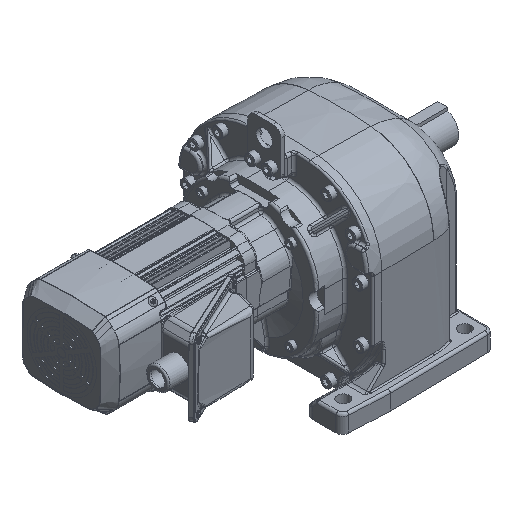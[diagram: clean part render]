
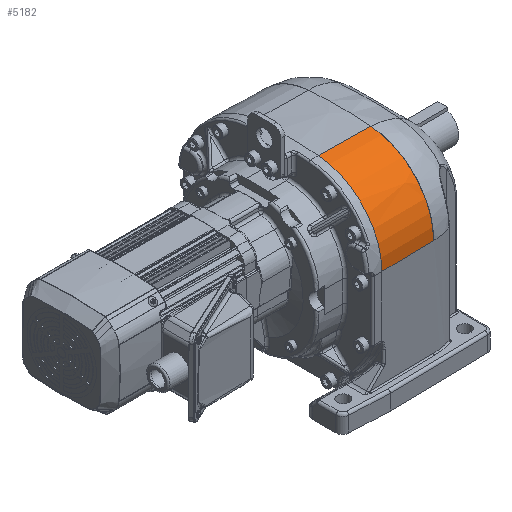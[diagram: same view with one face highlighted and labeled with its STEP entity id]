
A CAD part, isometric view. The second image highlights one B-rep face of the part: STEP entity #5182.
In plain terms, the highlighted free-form (B-spline) face has degree [2, 2] with [4, 3] control points.
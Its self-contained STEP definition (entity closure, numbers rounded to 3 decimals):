
#5182 = ADVANCED_FACE( '', ( #11649 ), #11650, .T. );
#11649 = FACE_OUTER_BOUND( '', #30127, .T. );
#11650 = ( BOUNDED_SURFACE(  )B_SPLINE_SURFACE( 2, 2, ( ( #30130, #30131, #30132 ), ( #30133, #30134, #30135 ), ( #30136, #30137, #30138 ), ( #30139, #30140, #30141 ) ), .UNSPECIFIED., .F., .F., .F. )B_SPLINE_SURFACE_WITH_KNOTS( ( 3, 1, 3 ), ( 3, 3 ), ( 0., 0.2, 1. ), ( 0., 1. ), .UNSPECIFIED. )GEOMETRIC_REPRESENTATION_ITEM(  )RATIONAL_B_SPLINE_SURFACE( ( ( 1., 0.734, 1. ), ( 1., 0.734, 1. ), ( 1., 0.734, 1. ), ( 1., 0.734, 1. ) ) )REPRESENTATION_ITEM( '' )SURFACE(  ) );
#30127 = EDGE_LOOP( '', ( #53343, #53344, #53345, #53346 ) );
#30130 = CARTESIAN_POINT( '', ( 65.03, -38.466, 82.375 ) );
#30131 = CARTESIAN_POINT( '', ( 65.03, -115.86, 76.389 ) );
#30132 = CARTESIAN_POINT( '', ( 65.03, -115.86, -1.236 ) );
#30133 = CARTESIAN_POINT( '', ( 58.527, -38.504, 82.486 ) );
#30134 = CARTESIAN_POINT( '', ( 58.527, -115.974, 76.493 ) );
#30135 = CARTESIAN_POINT( '', ( 58.527, -115.974, -1.237 ) );
#30136 = CARTESIAN_POINT( '', ( 26.012, -38.498, 83.058 ) );
#30137 = CARTESIAN_POINT( '', ( 26.012, -116.544, 77.024 ) );
#30138 = CARTESIAN_POINT( '', ( 26.012, -116.544, -1.234 ) );
#30139 = CARTESIAN_POINT( '', ( 0., -38.554, 83.511 ) );
#30140 = CARTESIAN_POINT( '', ( 0., -117., 77.444 ) );
#30141 = CARTESIAN_POINT( '', ( 0., -117., -1.236 ) );
#53343 = ORIENTED_EDGE( '', *, *, #67724, .T. );
#53344 = ORIENTED_EDGE( '', *, *, #67725, .F. );
#53345 = ORIENTED_EDGE( '', *, *, #66408, .F. );
#53346 = ORIENTED_EDGE( '', *, *, #67726, .F. );
#66408 = EDGE_CURVE( '', #73567, #77255, #77256, .T. );
#67724 = EDGE_CURVE( '', #73743, #76541, #78961, .T. );
#67725 = EDGE_CURVE( '', #77255, #76541, #78962, .T. );
#67726 = EDGE_CURVE( '', #73743, #73567, #78963, .T. );
#73567 = VERTEX_POINT( '', #89152 );
#73743 = VERTEX_POINT( '', #89469 );
#76541 = VERTEX_POINT( '', #95636 );
#77255 = VERTEX_POINT( '', #97276 );
#77256 = B_SPLINE_CURVE_WITH_KNOTS( '', 2, ( #97277, #97278, #97279, #97280 ), .UNSPECIFIED., .F., .F., ( 3, 1, 3 ), ( 0., 0.2, 1. ), .UNSPECIFIED. );
#78961 = B_SPLINE_CURVE_WITH_KNOTS( '', 2, ( #101775, #101776, #101777, #101778 ), .UNSPECIFIED., .F., .F., ( 3, 1, 3 ), ( 0., 0.2, 1. ), .UNSPECIFIED. );
#78962 = CIRCLE( '', #101779, 85. );
#78963 = CIRCLE( '', #101780, 83.86 );
#89152 = CARTESIAN_POINT( '', ( 65.03, -115.86, -1.236 ) );
#89469 = CARTESIAN_POINT( '', ( 65.03, -38.466, 82.375 ) );
#95636 = CARTESIAN_POINT( '', ( 0., -38.554, 83.511 ) );
#97276 = CARTESIAN_POINT( '', ( 0., -117., -1.236 ) );
#97277 = CARTESIAN_POINT( '', ( 65.03, -115.86, -1.236 ) );
#97278 = CARTESIAN_POINT( '', ( 58.527, -115.974, -1.237 ) );
#97279 = CARTESIAN_POINT( '', ( 26.012, -116.544, -1.234 ) );
#97280 = CARTESIAN_POINT( '', ( 0., -117., -1.236 ) );
#101775 = CARTESIAN_POINT( '', ( 65.03, -38.466, 82.375 ) );
#101776 = CARTESIAN_POINT( '', ( 58.527, -38.504, 82.486 ) );
#101777 = CARTESIAN_POINT( '', ( 26.012, -38.498, 83.058 ) );
#101778 = CARTESIAN_POINT( '', ( 0., -38.554, 83.511 ) );
#101779 = AXIS2_PLACEMENT_3D( '', #114335, #114336, #114337 );
#101780 = AXIS2_PLACEMENT_3D( '', #114338, #114339, #114340 );
#114335 = CARTESIAN_POINT( '', ( 0., -32., -1.236 ) );
#114336 = DIRECTION( '', ( -1., 0., 0. ) );
#114337 = DIRECTION( '', ( 0., 1., 0. ) );
#114338 = CARTESIAN_POINT( '', ( 65.03, -32., -1.236 ) );
#114339 = DIRECTION( '', ( 1., 0., 0. ) );
#114340 = DIRECTION( '', ( 0., -0.077, 0.997 ) );
